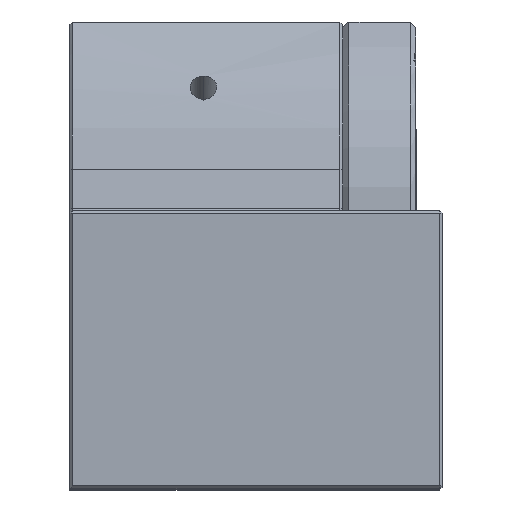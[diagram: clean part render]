
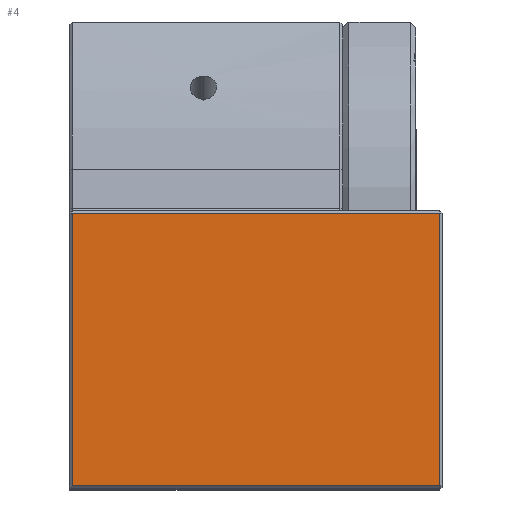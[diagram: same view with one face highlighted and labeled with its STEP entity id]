
A CAD part, top view. The second image highlights one B-rep face of the part: STEP entity #4.
In plain terms, the highlighted planar face has unit normal (0, 0, 1).
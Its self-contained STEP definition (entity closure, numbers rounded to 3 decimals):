
#1 = ORIENTED_EDGE ( 'NONE', *, *, #3, .T. ) ;
#2 = EDGE_LOOP ( 'NONE', ( #1, #8, #42, #34 ) ) ;
#3 = EDGE_CURVE ( 'NONE', #6, #7, #4288, .T. ) ;
#4 = ADVANCED_FACE ( 'NONE', ( #4284 ), #4283, .T. ) ;
#6 = VERTEX_POINT ( 'NONE', #4273 ) ;
#7 = VERTEX_POINT ( 'NONE', #4272 ) ;
#8 = ORIENTED_EDGE ( 'NONE', *, *, #9, .T. ) ;
#9 = EDGE_CURVE ( 'NONE', #7, #58, #4342, .T. ) ;
#33 = EDGE_CURVE ( 'NONE', #39, #6, #4372, .T. ) ;
#34 = ORIENTED_EDGE ( 'NONE', *, *, #33, .T. ) ;
#36 = EDGE_CURVE ( 'NONE', #58, #39, #4364, .T. ) ;
#39 = VERTEX_POINT ( 'NONE', #4360 ) ;
#42 = ORIENTED_EDGE ( 'NONE', *, *, #36, .T. ) ;
#58 = VERTEX_POINT ( 'NONE', #4387 ) ;
#4272 = CARTESIAN_POINT ( 'NONE',  ( 3.5, -50.5, 80. ) ) ;
#4273 = CARTESIAN_POINT ( 'NONE',  ( -66.5, -50.5, 80. ) ) ;
#4278 = DIRECTION ( 'NONE',  ( 1., 0., 0. ) ) ;
#4279 = DIRECTION ( 'NONE',  ( 0., 0., 1. ) ) ;
#4280 = AXIS2_PLACEMENT_3D ( 'NONE', #4282, #4279, #4278 ) ;
#4282 = CARTESIAN_POINT ( 'NONE',  ( -67., 0., 80. ) ) ;
#4283 = PLANE ( 'NONE',  #4280 ) ;
#4284 = FACE_OUTER_BOUND ( 'NONE', #2, .T. ) ;
#4285 = DIRECTION ( 'NONE',  ( 1., 0., 0. ) ) ;
#4286 = VECTOR ( 'NONE', #4285, 1000. ) ;
#4287 = CARTESIAN_POINT ( 'NONE',  ( 4., -50.5, 80. ) ) ;
#4288 = LINE ( 'NONE', #4287, #4286 ) ;
#4339 = DIRECTION ( 'NONE',  ( 0., 1., 0. ) ) ;
#4340 = VECTOR ( 'NONE', #4339, 1000. ) ;
#4341 = CARTESIAN_POINT ( 'NONE',  ( 3.5, 0., 80. ) ) ;
#4342 = LINE ( 'NONE', #4341, #4340 ) ;
#4360 = CARTESIAN_POINT ( 'NONE',  ( -66.5, 1.5, 80. ) ) ;
#4361 = DIRECTION ( 'NONE',  ( -1., 0., 0. ) ) ;
#4362 = VECTOR ( 'NONE', #4361, 1000. ) ;
#4363 = CARTESIAN_POINT ( 'NONE',  ( -67., 1.5, 80. ) ) ;
#4364 = LINE ( 'NONE', #4363, #4362 ) ;
#4369 = DIRECTION ( 'NONE',  ( 0., -1., 0. ) ) ;
#4370 = VECTOR ( 'NONE', #4369, 1000. ) ;
#4371 = CARTESIAN_POINT ( 'NONE',  ( -66.5, -51., 80. ) ) ;
#4372 = LINE ( 'NONE', #4371, #4370 ) ;
#4387 = CARTESIAN_POINT ( 'NONE',  ( 3.5, 1.5, 80. ) ) ;
